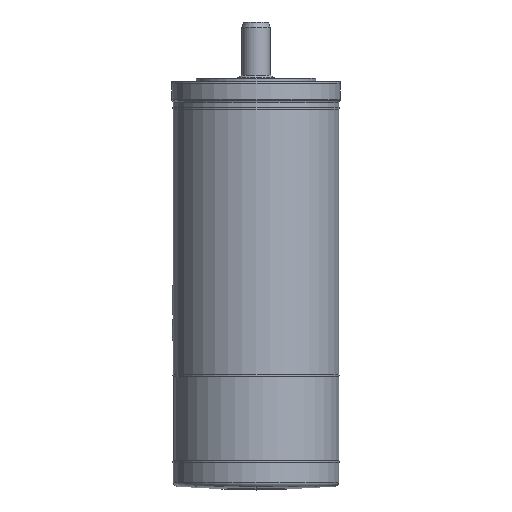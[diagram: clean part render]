
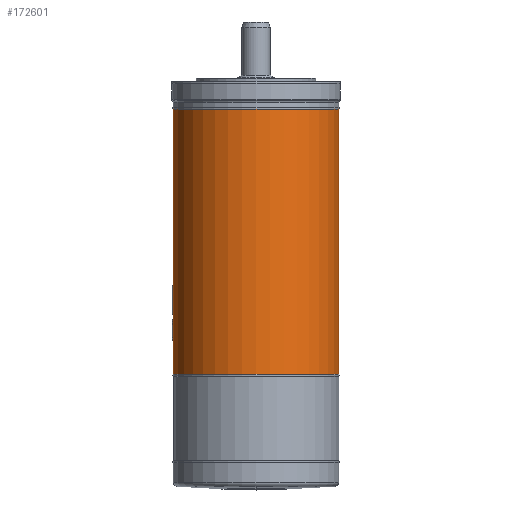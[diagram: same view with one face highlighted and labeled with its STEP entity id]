
A CAD part, front view. The second image highlights one B-rep face of the part: STEP entity #172601.
In plain terms, the highlighted cylindrical face has radius 55.499 mm (diameter 110.998 mm), a partial arc.
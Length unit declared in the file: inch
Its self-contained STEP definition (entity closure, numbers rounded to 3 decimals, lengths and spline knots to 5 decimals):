
#14687 = EDGE_CURVE ( 'NONE', #182601, #132432, #84527, .T. ) ;
#15103 = AXIS2_PLACEMENT_3D ( 'NONE', #143857, #146734, #210354 ) ;
#15282 = CARTESIAN_POINT ( 'NONE',  ( -2.185, 0., 0.19342 ) ) ;
#17403 = ORIENTED_EDGE ( 'NONE', *, *, #14687, .F. ) ;
#28485 = EDGE_CURVE ( 'NONE', #132432, #269111, #227247, .T. ) ;
#56259 = CARTESIAN_POINT ( 'NONE',  ( 2.185, 0., -7.722 ) ) ;
#57418 = DIRECTION ( 'NONE',  ( 0., 0., 1. ) ) ;
#84527 = LINE ( 'NONE', #15282, #263685 ) ;
#92303 = DIRECTION ( 'NONE',  ( 1., 0., 0. ) ) ;
#101824 = EDGE_CURVE ( 'NONE', #182601, #131714, #208638, .T. ) ;
#107961 = ORIENTED_EDGE ( 'NONE', *, *, #28485, .F. ) ;
#115400 = DIRECTION ( 'NONE',  ( 0., 0., 1. ) ) ;
#116449 = AXIS2_PLACEMENT_3D ( 'NONE', #215669, #263185, #152027 ) ;
#122428 = LINE ( 'NONE', #207692, #220457 ) ;
#128492 = EDGE_LOOP ( 'NONE', ( #17403, #205703, #188544, #107961 ) ) ;
#131714 = VERTEX_POINT ( 'NONE', #56259 ) ;
#132432 = VERTEX_POINT ( 'NONE', #159128 ) ;
#135728 = AXIS2_PLACEMENT_3D ( 'NONE', #177574, #115400, #92303 ) ;
#143857 = CARTESIAN_POINT ( 'NONE',  ( 0., 0., -0.728 ) ) ;
#146734 = DIRECTION ( 'NONE',  ( 0., 0., 1. ) ) ;
#152027 = DIRECTION ( 'NONE',  ( 1., 0., 0. ) ) ;
#155890 = CYLINDRICAL_SURFACE ( 'NONE', #135728, 2.185 ) ;
#159128 = CARTESIAN_POINT ( 'NONE',  ( -2.185, 0., -0.728 ) ) ;
#160527 = CARTESIAN_POINT ( 'NONE',  ( 2.185, 0., -0.728 ) ) ;
#172601 = ADVANCED_FACE ( 'NONE', ( #268473 ), #155890, .T. ) ;
#177574 = CARTESIAN_POINT ( 'NONE',  ( 0., 0., 0.19342 ) ) ;
#182601 = VERTEX_POINT ( 'NONE', #221701 ) ;
#188544 = ORIENTED_EDGE ( 'NONE', *, *, #237143, .T. ) ;
#205703 = ORIENTED_EDGE ( 'NONE', *, *, #101824, .T. ) ;
#207692 = CARTESIAN_POINT ( 'NONE',  ( 2.185, 0., 0.19342 ) ) ;
#208638 = CIRCLE ( 'NONE', #116449, 2.185 ) ;
#210354 = DIRECTION ( 'NONE',  ( 1., 0., 0. ) ) ;
#215669 = CARTESIAN_POINT ( 'NONE',  ( 0., 0., -7.722 ) ) ;
#220457 = VECTOR ( 'NONE', #57418, 39.37008 ) ;
#221701 = CARTESIAN_POINT ( 'NONE',  ( -2.185, 0., -7.722 ) ) ;
#227247 = CIRCLE ( 'NONE', #15103, 2.185 ) ;
#237143 = EDGE_CURVE ( 'NONE', #131714, #269111, #122428, .T. ) ;
#257878 = DIRECTION ( 'NONE',  ( 0., 0., 1. ) ) ;
#263185 = DIRECTION ( 'NONE',  ( 0., 0., 1. ) ) ;
#263685 = VECTOR ( 'NONE', #257878, 39.37008 ) ;
#268473 = FACE_OUTER_BOUND ( 'NONE', #128492, .T. ) ;
#269111 = VERTEX_POINT ( 'NONE', #160527 ) ;
